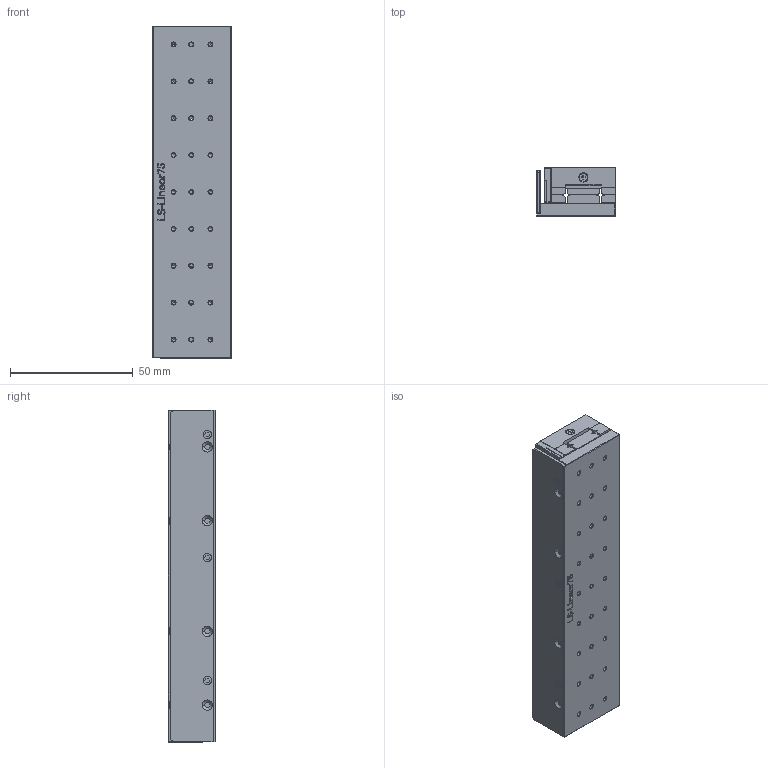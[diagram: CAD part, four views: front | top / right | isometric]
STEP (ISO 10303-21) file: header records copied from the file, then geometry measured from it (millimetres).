
FILE_DESCRIPTION (( 'STEP AP203' ), '1' );
FILE_NAME ('LS-Linear75.STEP', '2024-04-19T07:34:22', ( '' ), ( '' ), 'SwSTEP 2.0', 'SolidWorks 2020', '' );
FILE_SCHEMA (( 'CONFIG_CONTROL_DESIGN' ));
Length unit declared in the file: millimetre
Products named in the file (1): LS-Linear75
Bounding box: 32 x 19.5 x 135 mm (x, y, z)
Volume: 72825 mm3; surface area: 49848.9 mm2
Topology: 12 solids, 12 shells, 2047 faces, 5472 edges, 3536 vertices
Faces by surface type: bspline 927, plane 666, cylinder 286, cone 168
Entity records: 74221 total; most frequent: CARTESIAN_POINT 28975, ORIENTED_EDGE 10848, DIRECTION 6498, EDGE_CURVE 5424, VERTEX_POINT 3536, VECTOR 2852, LINE 2852, EDGE_LOOP 2330
